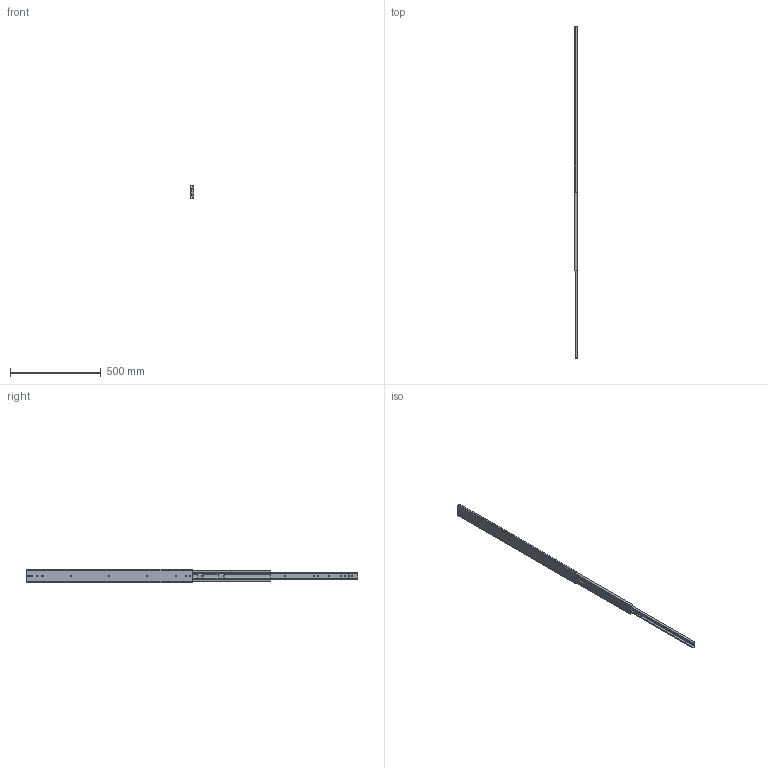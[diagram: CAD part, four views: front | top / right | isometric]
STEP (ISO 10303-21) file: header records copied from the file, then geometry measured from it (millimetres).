
FILE_DESCRIPTION(/* description */ ('Unknown'),/* implementation_level */ '2;1');
FILE_NAME(/* name */ '76J01-36 open',/* time_stamp */ '2024-07-26T16:14:08+08:00',/* author */ ('Unknown'),/* organization */ ('Unknown'),/* preprocessor_version */ 'ST-DEVELOPER v18.104',/* originating_system */ 'Solid Edge',/* authorisation */ 'Unknown');
FILE_SCHEMA (('AUTOMOTIVE_DESIGN {1 0 10303 214 3 1 1}'));
Length unit declared in the file: millimetre
Products named in the file (4): 76J01-36 open; 76J01 36 inch 內_0i; 76J01 36 吋中_; 76J01 36 ¦T æ?
Assembly tree (3 placements, depth 2):
  76J01-36 open
    76J01 36 inch 內_0i
    76J01 36 吋中_
    76J01 36 ¦T æ?
Bounding box: 19.3 x 1828.1 x 76.76 mm (x, y, z)
Volume: 718773.3 mm3; surface area: 447590.6 mm2
Topology: 3 solids, 3 shells, 193 faces, 595 edges, 402 vertices
Faces by surface type: plane 104, cylinder 89
Full cylindrical faces by diameter (mm): 5.2 x14, 7.1 x2
Entity records: 7062 total; most frequent: CARTESIAN_POINT 1149, DIRECTION 1135, ORIENTED_EDGE 1126, EDGE_CURVE 563, VERTEX_POINT 386, LINE 383, VECTOR 383, AXIS2_PLACEMENT_3D 376
